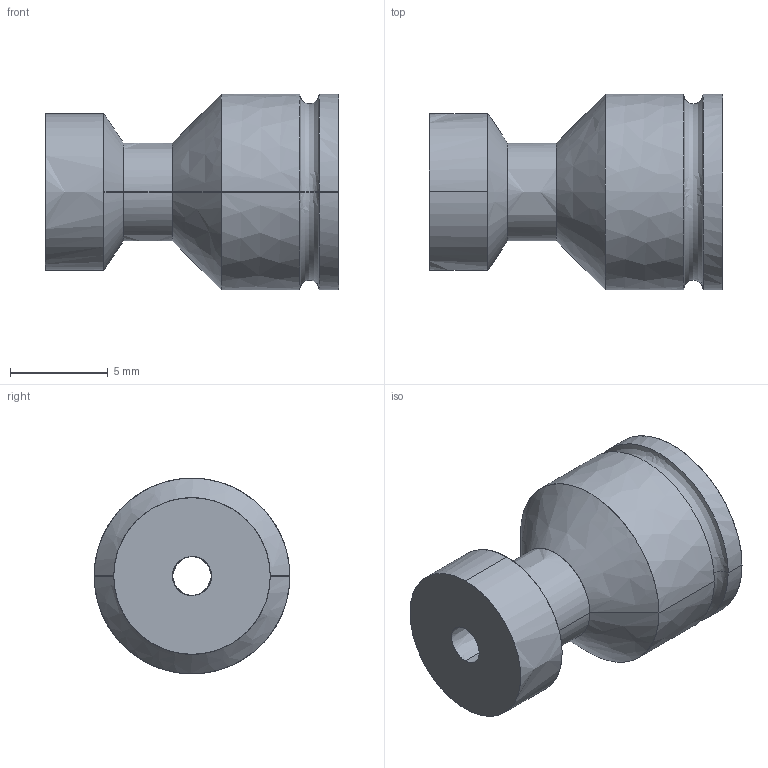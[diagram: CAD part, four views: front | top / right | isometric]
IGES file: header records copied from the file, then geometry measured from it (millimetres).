
Start section: SolidWorks IGES file using analytic representation for surfaces
Global section: file name: C:\Users\STAR081C\Desktop\211298.IGS; native system: SolidWorks 2018; preprocessor: SolidWorks 2018; author: STAR081C; date: 250529.143730; units: millimetre
Bounding box: 15 x 10 x 10 mm (x, y, z)
Surface area: 844.6 mm2 (no closed solid volume)
Topology: 0 solids, 0 shells, 29 faces, 246 edges, 246 vertices
Faces by surface type: bspline 29
